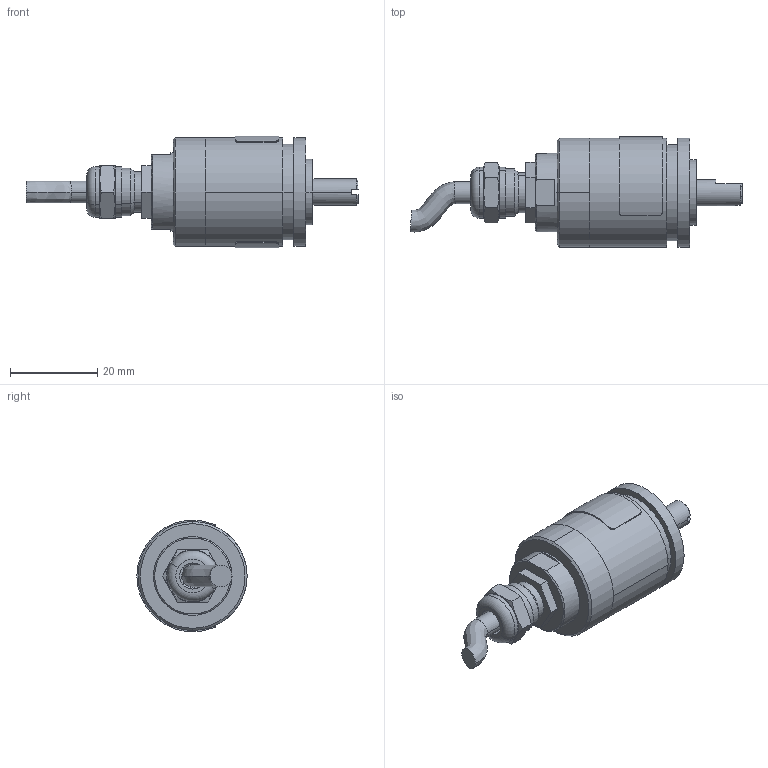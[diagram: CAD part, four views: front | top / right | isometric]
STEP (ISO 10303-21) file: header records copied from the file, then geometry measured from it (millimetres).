
FILE_DESCRIPTION (( 'STEP AP203' ), '1' );
FILE_NAME ('HTx25 6x12 PG.STEP', '2022-05-31T13:13:19', ( '' ), ( '' ), 'SwSTEP 2.0', 'SolidWorks 2019', '' );
FILE_SCHEMA (( 'CONFIG_CONTROL_DESIGN' ));
Length unit declared in the file: millimetre
Products named in the file (1): HTx25 6x12 PG
Bounding box: 76.13 x 25.3 x 25.6 mm (x, y, z)
Surface area: 7527.6 mm2 (no closed solid volume)
Topology: 0 solids, 11 shells, 160 faces, 382 edges, 246 vertices
Faces by surface type: cylinder 62, plane 52, cone 40, bspline 4, torus 2
Entity records: 5395 total; most frequent: CARTESIAN_POINT 1585, DIRECTION 827, ORIENTED_EDGE 706, EDGE_CURVE 382, AXIS2_PLACEMENT_3D 338, VERTEX_POINT 246, EDGE_LOOP 186, CIRCLE 181
